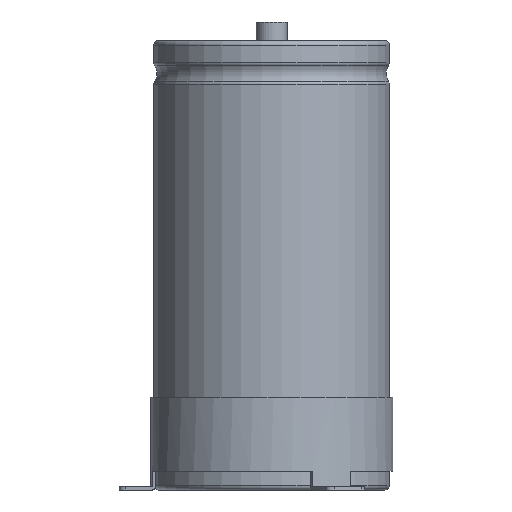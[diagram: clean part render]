
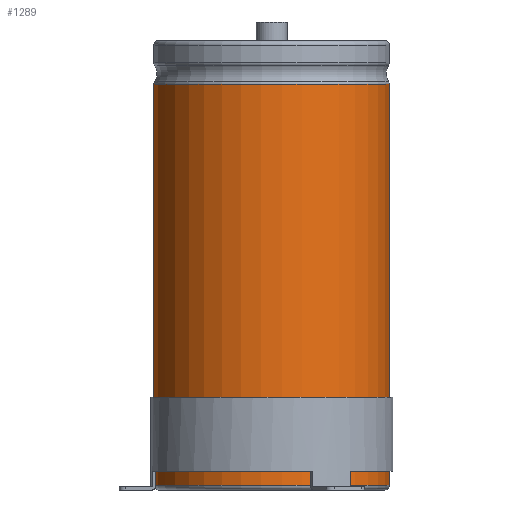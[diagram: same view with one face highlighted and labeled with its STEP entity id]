
A CAD part, front view. The second image highlights one B-rep face of the part: STEP entity #1289.
In plain terms, the highlighted cylindrical face has radius 38.1 mm (diameter 76.2 mm), a partial arc.
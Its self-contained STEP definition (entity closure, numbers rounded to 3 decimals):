
#233=LINE('',#6601,#447);
#234=LINE('',#6605,#448);
#447=VECTOR('',#5224,1.);
#448=VECTOR('',#5227,1.);
#695=FACE_OUTER_BOUND('',#1741,.T.);
#1289=ADVANCED_FACE('',(#695),#1519,.T.);
#1519=CYLINDRICAL_SURFACE('',#4585,38.1);
#1741=EDGE_LOOP('',(#2147,#2148,#2149,#2150));
#2147=ORIENTED_EDGE('',*,*,#3702,.T.);
#2148=ORIENTED_EDGE('',*,*,#3703,.T.);
#2149=ORIENTED_EDGE('',*,*,#3704,.F.);
#2150=ORIENTED_EDGE('',*,*,#3705,.F.);
#3274=VERTEX_POINT('',#6594);
#3276=VERTEX_POINT('',#6598);
#3277=VERTEX_POINT('',#6602);
#3278=VERTEX_POINT('',#6604);
#3702=EDGE_CURVE('',#3274,#3276,#4267,.T.);
#3703=EDGE_CURVE('',#3276,#3277,#233,.T.);
#3704=EDGE_CURVE('',#3278,#3277,#4268,.T.);
#3705=EDGE_CURVE('',#3274,#3278,#234,.T.);
#4267=CIRCLE('',#4582,38.1);
#4268=CIRCLE('',#4584,38.1);
#4582=AXIS2_PLACEMENT_3D('',#6599,#5220,#5221);
#4584=AXIS2_PLACEMENT_3D('',#6603,#5225,#5226);
#4585=AXIS2_PLACEMENT_3D('',#6606,#5228,#5229);
#5220=DIRECTION('',(0.,0.,-1.));
#5221=DIRECTION('',(0.,1.,0.));
#5224=DIRECTION('',(0.,0.,-1.));
#5225=DIRECTION('',(0.,0.,-1.));
#5226=DIRECTION('',(0.,1.,0.));
#5227=DIRECTION('',(0.,0.,-1.));
#5228=DIRECTION('',(0.,0.,-1.));
#5229=DIRECTION('',(0.,1.,0.));
#6594=CARTESIAN_POINT('',(3.983,37.891,130.9));
#6598=CARTESIAN_POINT('',(-3.983,37.891,130.9));
#6599=CARTESIAN_POINT('',(0.,0.,130.9));
#6601=CARTESIAN_POINT('',(-3.983,37.891,130.9));
#6602=CARTESIAN_POINT('',(-3.983,37.891,1.5));
#6603=CARTESIAN_POINT('',(0.,0.,1.5));
#6604=CARTESIAN_POINT('',(3.983,37.891,1.5));
#6605=CARTESIAN_POINT('',(3.983,37.891,130.9));
#6606=CARTESIAN_POINT('',(0.,0.,0.));
